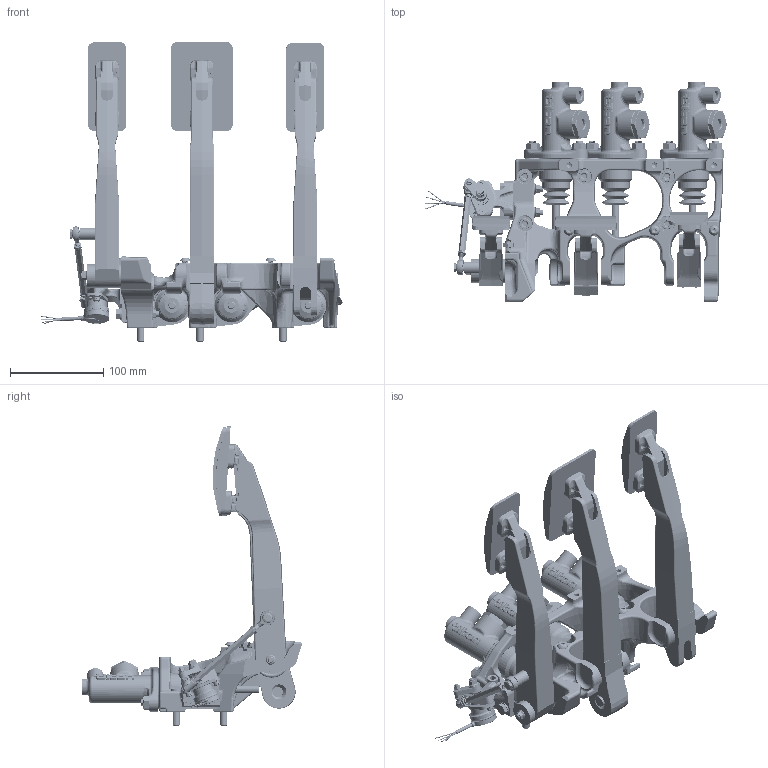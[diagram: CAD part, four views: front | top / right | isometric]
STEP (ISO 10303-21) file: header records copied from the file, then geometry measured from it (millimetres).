
FILE_DESCRIPTION( ( 'Unknown' ), '1' );
FILE_NAME( 'M:/ENG2/CAD/DRAWINGS/Solid Models For Customers (Simplified)/PEDAL ASSEMBLIES/72-616/72-616 PARTIALLY SIMPLIFIED FOR SELECT CUSTOMERS/TILTON 72-616 PEDAL ASSEMBLY, 3-9-162.stp', 'Unknown', ( 'Unknown' ), ( 'Unknown' ), 'PSStep 17.0.49', 'Unknown', ' ' );
FILE_SCHEMA( ( 'AUTOMOTIVE_DESIGN { 1 0 10303 214 1 1 1 1 }' ) );
Length unit declared in the file: inch
Products named in the file (57): TILTON 72-616 PEDAL ASSEMBLY, 3-9-16_0; Assem1;     NONE
Assembly tree (87 placements, depth 3):
  Assem1
    (unnamed)  x6
    (unnamed)  x3
    (unnamed)  x6
    (unnamed)
    (unnamed)
    (unnamed)
    (unnamed)
    (unnamed)
    (unnamed)
    (unnamed)
    (unnamed)
    (unnamed)  x6
    (unnamed)
    (unnamed)  x2
    (unnamed)
        NONE
        NONE
    (unnamed)
    (unnamed)
    (unnamed)
    (unnamed)
    (unnamed)  x3
    (unnamed)
    (unnamed)
    (unnamed)
    (unnamed)
    (unnamed)
    (unnamed)
    (unnamed)
    (unnamed)
    (unnamed)
    (unnamed)
    TILTON 72-616 PEDAL ASSEMBLY, 3-9-16_0
      (unnamed)
      (unnamed)
      (unnamed)
      (unnamed)
      (unnamed)
      (unnamed)
      (unnamed)
      (unnamed)
      (unnamed)
      (unnamed)
      (unnamed)  x2
      (unnamed)  x2
      (unnamed)  x3
      (unnamed)  x5
      (unnamed)
      (unnamed)  x2
      (unnamed)  x2
      (unnamed)
      (unnamed)
      (unnamed)
      (unnamed)
      (unnamed)
      (unnamed)  x2
Bounding box: 322.97 x 235.15 x 320.89 mm (x, y, z)
Volume: 1103045.7 mm3; surface area: 367989.8 mm2
Topology: 84 solids, 1301 shells, 5941 faces, 18357 edges, 13762 vertices
Faces by surface type: bspline 2097, plane 1726, cylinder 1309, cone 458, torus 207, sphere 137, extrusion 4, revolution 3
Full cylindrical faces by diameter (mm): 3.853 x9, 3.967 x8, 4.369 x2, 4.699 x1, 4.762 x2, 4.826 x9, 4.877 x1, 4.976 x18, 5.387 x42, 6.35 x42, 6.411 x3, 6.756 x2, 7.207 x2, 7.938 x21, 8.331 x6, 8.379 x3, 8.382 x3, 8.636 x6, 9 x7, 9.449 x1, 9.525 x1, 9.55 x1, 9.652 x1, 9.738 x3, 10.08 x1, 10.668 x1, 11.1 x3, 11.138 x2, 11.224 x1, 11.684 x6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
Entity records: 290446 total; most frequent: CARTESIAN_POINT 129716, ORIENTED_EDGE 22302, DIRECTION 15100, EDGE_CURVE 14117, VERTEX_POINT 11333, PRESENTATION_STYLE_ASSIGNMENT 9313, COLOUR_RGB 9313, B_SPLINE_CURVE_WITH_KNOTS 5616
